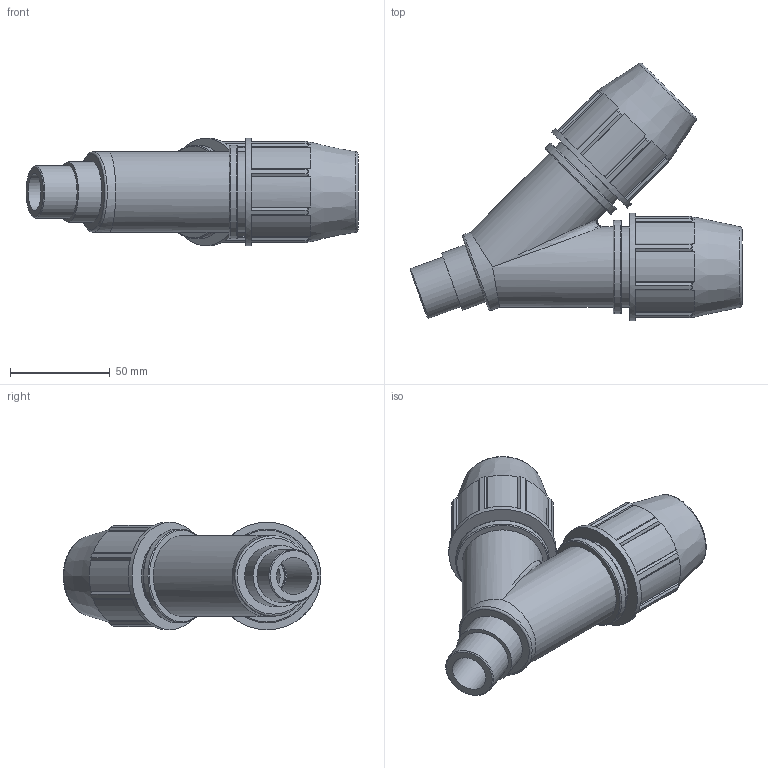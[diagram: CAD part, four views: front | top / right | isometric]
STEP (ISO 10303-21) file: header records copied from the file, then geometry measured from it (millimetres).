
FILE_DESCRIPTION(/* description */ ('PLASSON Y FITTING 3/4'''' - 3/4'''' - 3/4''''M'),/* implementation_level */ '2;1');
FILE_NAME(/* name */ 'C:\Dropbox\KIMPROJECTS-Inventor 2019\99-16-3568-Processing Inch\ASTM Compression 2021\0755M0\0755M0007007.ipt.stp',/* time_stamp */ '2021-08-26T12:34:19+03:00',/* author */ ('KIM'),/* organization */ (''),/* preprocessor_version */ 'ST-DEVELOPER v17.2',/* originating_system */ 'Autodesk Inventor 2019',/* authorisation */ '');
FILE_SCHEMA (('AUTOMOTIVE_DESIGN { 1 0 10303 214 3 1 1 }'));
Length unit declared in the file: inch
Products named in the file (1): 0755M0007007
Bounding box: 166.31 x 129.02 x 53.85 mm (x, y, z)
Volume: 286802.5 mm3; surface area: 61235.7 mm2
Topology: 1 solids, 1 shells, 174 faces, 483 edges, 324 vertices
Faces by surface type: plane 101, cylinder 42, cone 23, torus 7, bspline 1
Full cylindrical faces by diameter (mm): 18.509 x3, 26.441 x1, 26.6 x2, 30.407 x1, 40.386 x5, 46.848 x2, 53.848 x2
Entity records: 6021 total; most frequent: CARTESIAN_POINT 1232, DIRECTION 991, ORIENTED_EDGE 962, EDGE_CURVE 481, AXIS2_PLACEMENT_3D 372, VERTEX_POINT 324, LINE 247, VECTOR 247
